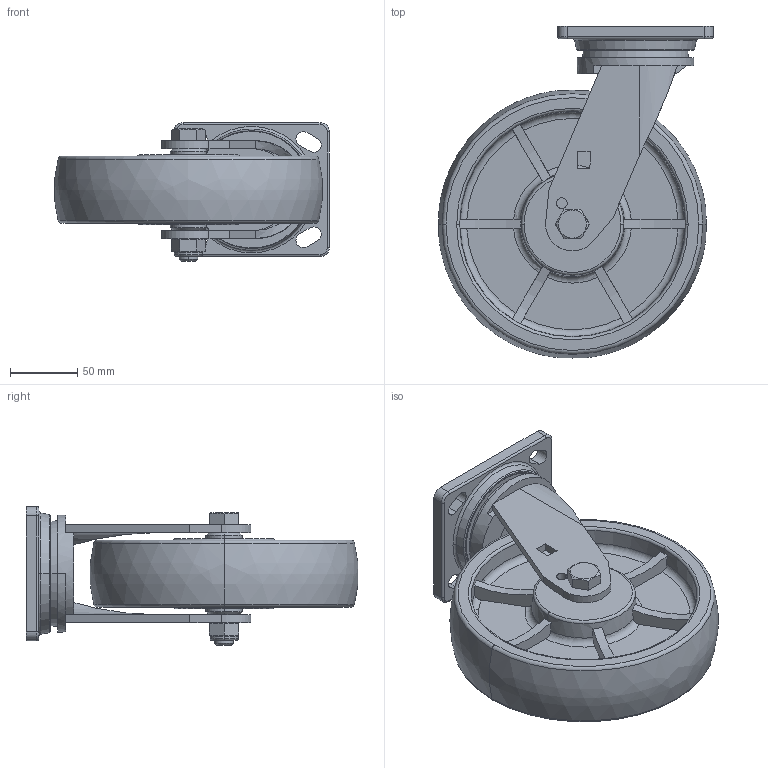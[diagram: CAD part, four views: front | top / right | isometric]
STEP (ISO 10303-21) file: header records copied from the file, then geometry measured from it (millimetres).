
FILE_DESCRIPTION((''),'2;1');
FILE_NAME('78114_ASM','2021-06-01T',('lenovo'),(''),'PRO/ENGINEER BY PARAMETRIC TECHNOLOGY CORPORATION, 2010280','PRO/ENGINEER BY PARAMETRIC TECHNOLOGY CORPORATION, 2010280','');
FILE_SCHEMA(('CONFIG_CONTROL_DESIGN'));
Length unit declared in the file: millimetre
Products named in the file (7): 7810-201; 768C11; 7810-211; 788-926; 780-33; 780-34; 78114_ASM
Assembly tree (6 placements, depth 2):
  78114_ASM
    7810-201
    768C11
    7810-211
    788-926
    780-33
    780-34
Bounding box: 204.67 x 247.17 x 103.5 mm (x, y, z)
Volume: 1248696 mm3; surface area: 209847.8 mm2
Topology: 7 solids, 7 shells, 264 faces, 656 edges, 416 vertices
Faces by surface type: plane 110, cylinder 62, torus 58, cone 30, bspline 4
Entity records: 8810 total; most frequent: CARTESIAN_POINT 2395, DIRECTION 1326, ORIENTED_EDGE 1312, EDGE_CURVE 656, AXIS2_PLACEMENT_3D 547, VERTEX_POINT 416, EDGE_LOOP 298, CIRCLE 274
